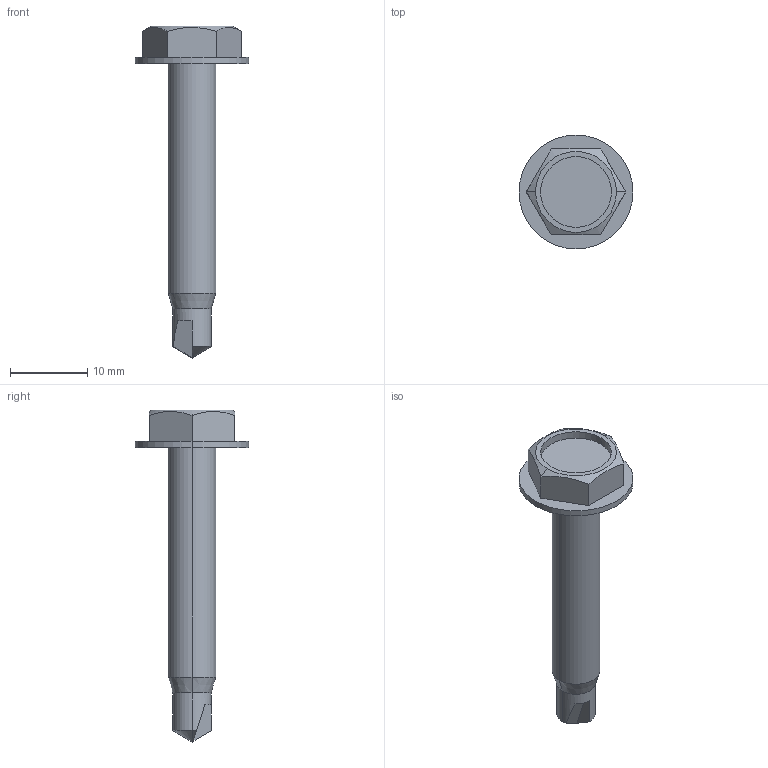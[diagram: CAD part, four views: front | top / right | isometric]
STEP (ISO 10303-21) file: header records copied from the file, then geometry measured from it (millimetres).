
FILE_DESCRIPTION((''),'2;1');
FILE_NAME('807-1944','2023-03-13T',('jenni.wallner'),(''),'PRO/ENGINEER BY PARAMETRIC TECHNOLOGY CORPORATION, 2012420','PRO/ENGINEER BY PARAMETRIC TECHNOLOGY CORPORATION, 2012420','');
FILE_SCHEMA(('CONFIG_CONTROL_DESIGN'));
Length unit declared in the file: inch
Products named in the file (1): 807-1944
Bounding box: 14.73 x 14.73 x 42.93 mm (x, y, z)
Volume: 1521.1 mm3; surface area: 1238.9 mm2
Topology: 1 solids, 1 shells, 30 faces, 70 edges, 43 vertices
Faces by surface type: plane 16, cylinder 8, cone 6
Entity records: 963 total; most frequent: CARTESIAN_POINT 246, DIRECTION 140, ORIENTED_EDGE 136, EDGE_CURVE 68, AXIS2_PLACEMENT_3D 52, VERTEX_POINT 43, VECTOR 36, LINE 36
